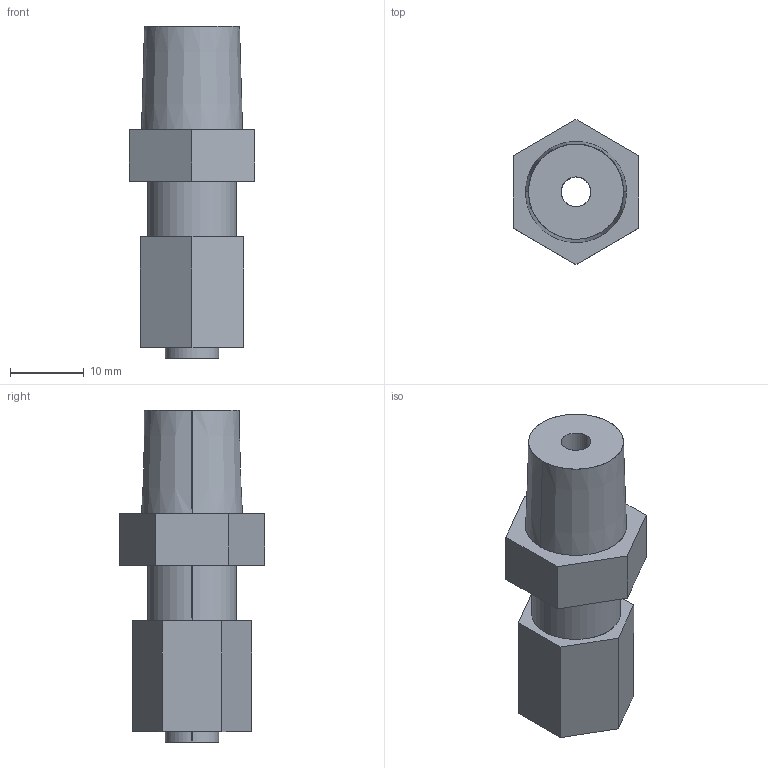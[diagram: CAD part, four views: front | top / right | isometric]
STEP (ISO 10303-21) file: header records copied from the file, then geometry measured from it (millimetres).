
FILE_DESCRIPTION(/* description */ (''),/* implementation_level */ '2;1');
FILE_NAME(/* name */ 'FZ-17-6-1-4.step',/* time_stamp */ '2025-07-24T18:43:46+09:00',/* author */ (''),/* organization */ (''),/* preprocessor_version */ 'ST-DEVELOPER v20.1',/* originating_system */ 'Autodesk Translation Framework v14.10.0.0',/* authorisation */ '');
FILE_SCHEMA (('AUTOMOTIVE_DESIGN { 1 0 10303 214 3 1 1 }'));
Length unit declared in the file: millimetre
Products named in the file (2): (未保存); KCT06-020E
Assembly tree (1 placements, depth 2):
  (未保存)
    KCT06-020E
Bounding box: 17 x 19.63 x 44.9 mm (x, y, z)
Surface area: 3293 mm2 (no closed solid volume)
Topology: 0 solids, 29 shells, 29 faces, 122 edges, 122 vertices
Faces by surface type: plane 19, cylinder 8, cone 2
Entity records: 1715 total; most frequent: CARTESIAN_POINT 612, DIRECTION 196, VERTEX_POINT 122, EDGE_CURVE 122, ORIENTED_EDGE 122, LINE 92, VECTOR 92, AXIS2_PLACEMENT_3D 52
